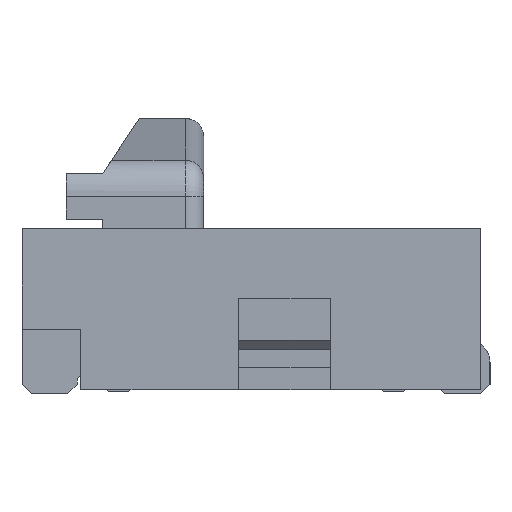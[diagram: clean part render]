
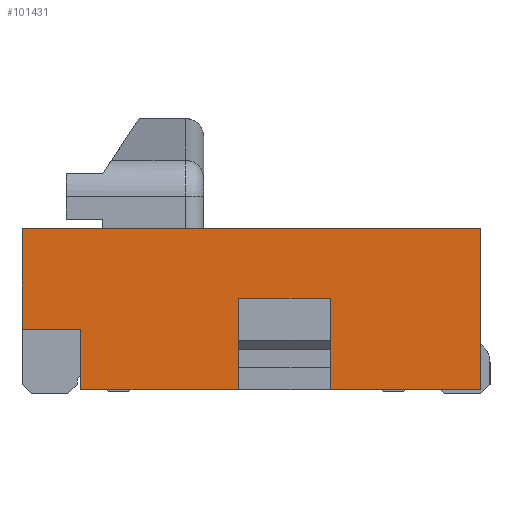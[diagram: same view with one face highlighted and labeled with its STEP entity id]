
A CAD part, left-side view. The second image highlights one B-rep face of the part: STEP entity #101431.
In plain terms, the highlighted planar face has unit normal (-1, 0, 0).
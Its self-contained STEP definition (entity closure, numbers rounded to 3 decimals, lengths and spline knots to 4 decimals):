
#349 = VECTOR ( 'NONE', #15688, 1000. ) ;
#359 = VECTOR ( 'NONE', #15681, 1000. ) ;
#377 = VECTOR ( 'NONE', #15672, 1000. ) ;
#382 = VECTOR ( 'NONE', #15678, 1000. ) ;
#388 = VECTOR ( 'NONE', #15675, 1000. ) ;
#394 = VECTOR ( 'NONE', #15685, 1000. ) ;
#395 = VECTOR ( 'NONE', #15690, 1000. ) ;
#8438 = EDGE_CURVE ( 'NONE', #11243, #11289, #15602, .T. ) ;
#8444 = EDGE_CURVE ( 'NONE', #11241, #11297, #15631, .T. ) ;
#8457 = EDGE_CURVE ( 'NONE', #11297, #11305, #15670, .T. ) ;
#8458 = EDGE_CURVE ( 'NONE', #11305, #9955, #15673, .T. ) ;
#8459 = EDGE_CURVE ( 'NONE', #9955, #11307, #15676, .T. ) ;
#8460 = EDGE_CURVE ( 'NONE', #11307, #11308, #15679, .T. ) ;
#8461 = EDGE_CURVE ( 'NONE', #11306, #11308, #15682, .T. ) ;
#8462 = EDGE_CURVE ( 'NONE', #11299, #11306, #15654, .T. ) ;
#8463 = EDGE_CURVE ( 'NONE', #11299, #11289, #15665, .T. ) ;
#9955 = VERTEX_POINT ( 'NONE', #20354 ) ;
#11241 = VERTEX_POINT ( 'NONE', #20695 ) ;
#11243 = VERTEX_POINT ( 'NONE', #20697 ) ;
#11289 = VERTEX_POINT ( 'NONE', #20743 ) ;
#11297 = VERTEX_POINT ( 'NONE', #20751 ) ;
#11299 = VERTEX_POINT ( 'NONE', #20753 ) ;
#11305 = VERTEX_POINT ( 'NONE', #20759 ) ;
#11306 = VERTEX_POINT ( 'NONE', #20760 ) ;
#11307 = VERTEX_POINT ( 'NONE', #20761 ) ;
#11308 = VERTEX_POINT ( 'NONE', #20762 ) ;
#15602 = LINE ( 'NONE', #15614, #79411 ) ;
#15614 = CARTESIAN_POINT ( 'NONE',  ( -6., -1.18, -0.38 ) ) ;
#15616 = DIRECTION ( 'NONE',  ( 0., 0., -1. ) ) ;
#15631 = LINE ( 'NONE', #15633, #79419 ) ;
#15633 = CARTESIAN_POINT ( 'NONE',  ( -6., -1.68, -0.38 ) ) ;
#15634 = DIRECTION ( 'NONE',  ( 0., 0., -1. ) ) ;
#15654 = LINE ( 'NONE', #15686, #349 ) ;
#15665 = LINE ( 'NONE', #15689, #395 ) ;
#15670 = LINE ( 'NONE', #15671, #377 ) ;
#15671 = CARTESIAN_POINT ( 'NONE',  ( -6., -2.5, -0.88 ) ) ;
#15672 = DIRECTION ( 'NONE',  ( 0., -1., 0. ) ) ;
#15673 = LINE ( 'NONE', #15674, #388 ) ;
#15674 = CARTESIAN_POINT ( 'NONE',  ( -6., -2.5, -0.88 ) ) ;
#15675 = DIRECTION ( 'NONE',  ( 0., 0., 1. ) ) ;
#15676 = LINE ( 'NONE', #15677, #382 ) ;
#15677 = CARTESIAN_POINT ( 'NONE',  ( -6., 0., 0. ) ) ;
#15678 = DIRECTION ( 'NONE',  ( 0., 1., 0. ) ) ;
#15679 = LINE ( 'NONE', #15680, #359 ) ;
#15680 = CARTESIAN_POINT ( 'NONE',  ( -6., 0., 0. ) ) ;
#15681 = DIRECTION ( 'NONE',  ( 0., 0., -1. ) ) ;
#15682 = LINE ( 'NONE', #15684, #394 ) ;
#15684 = CARTESIAN_POINT ( 'NONE',  ( -6., 0., -0.55 ) ) ;
#15685 = DIRECTION ( 'NONE',  ( 0., 1., 0. ) ) ;
#15686 = CARTESIAN_POINT ( 'NONE',  ( -6., -0.32, -0.88 ) ) ;
#15688 = DIRECTION ( 'NONE',  ( 0., 0., 1. ) ) ;
#15689 = CARTESIAN_POINT ( 'NONE',  ( -6., -2.5, -0.88 ) ) ;
#15690 = DIRECTION ( 'NONE',  ( 0., -1., 0. ) ) ;
#20354 = CARTESIAN_POINT ( 'NONE',  ( -6., -2.5, 0. ) ) ;
#20695 = CARTESIAN_POINT ( 'NONE',  ( -6., -1.68, -0.38 ) ) ;
#20697 = CARTESIAN_POINT ( 'NONE',  ( -6., -1.18, -0.38 ) ) ;
#20743 = CARTESIAN_POINT ( 'NONE',  ( -6., -1.18, -0.88 ) ) ;
#20751 = CARTESIAN_POINT ( 'NONE',  ( -6., -1.68, -0.88 ) ) ;
#20753 = CARTESIAN_POINT ( 'NONE',  ( -6., -0.32, -0.88 ) ) ;
#20759 = CARTESIAN_POINT ( 'NONE',  ( -6., -2.5, -0.88 ) ) ;
#20760 = CARTESIAN_POINT ( 'NONE',  ( -6., -0.32, -0.55 ) ) ;
#20761 = CARTESIAN_POINT ( 'NONE',  ( -6., 0., 0. ) ) ;
#20762 = CARTESIAN_POINT ( 'NONE',  ( -6., 0., -0.55 ) ) ;
#24286 = AXIS2_PLACEMENT_3D ( 'NONE', #24676, #24687, #24688 ) ;
#24676 = CARTESIAN_POINT ( 'NONE',  ( -6., -2.4, 0. ) ) ;
#24684 = FACE_OUTER_BOUND ( 'NONE', #84681, .T. ) ;
#24685 = PLANE ( 'NONE',  #24286 ) ;
#24687 = DIRECTION ( 'NONE',  ( 1., 0., 0. ) ) ;
#24688 = DIRECTION ( 'NONE',  ( 0., 1., 0. ) ) ;
#79411 = VECTOR ( 'NONE', #15616, 1000. ) ;
#79419 = VECTOR ( 'NONE', #15634, 1000. ) ;
#82112 = EDGE_CURVE ( 'NONE', #11243, #11241, #96669, .T. ) ;
#84681 = EDGE_LOOP ( 'NONE', ( #108971, #108970, #108969, #108968, #108967, #108966, #108965, #108964, #108963, #108962 ) ) ;
#95920 = VECTOR ( 'NONE', #96682, 1000. ) ;
#96669 = LINE ( 'NONE', #96681, #95920 ) ;
#96681 = CARTESIAN_POINT ( 'NONE',  ( -6., -1.18, -0.38 ) ) ;
#96682 = DIRECTION ( 'NONE',  ( 0., -1., 0. ) ) ;
#101431 = ADVANCED_FACE ( 'NONE', ( #24684 ), #24685, .F. ) ;
#108962 = ORIENTED_EDGE ( 'NONE', *, *, #8463, .T. ) ;
#108963 = ORIENTED_EDGE ( 'NONE', *, *, #8462, .F. ) ;
#108964 = ORIENTED_EDGE ( 'NONE', *, *, #8461, .F. ) ;
#108965 = ORIENTED_EDGE ( 'NONE', *, *, #8460, .T. ) ;
#108966 = ORIENTED_EDGE ( 'NONE', *, *, #8459, .T. ) ;
#108967 = ORIENTED_EDGE ( 'NONE', *, *, #8458, .T. ) ;
#108968 = ORIENTED_EDGE ( 'NONE', *, *, #8457, .T. ) ;
#108969 = ORIENTED_EDGE ( 'NONE', *, *, #8444, .T. ) ;
#108970 = ORIENTED_EDGE ( 'NONE', *, *, #82112, .T. ) ;
#108971 = ORIENTED_EDGE ( 'NONE', *, *, #8438, .F. ) ;
